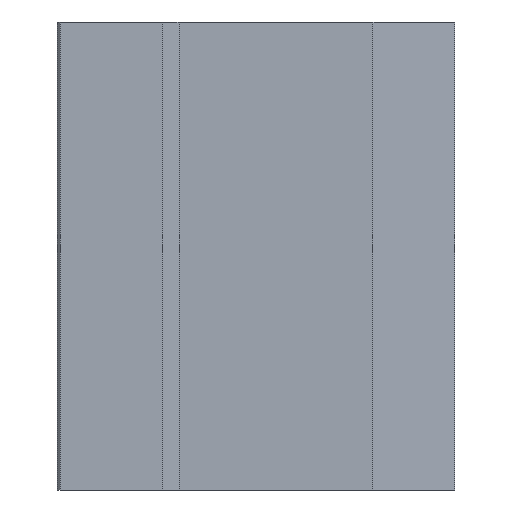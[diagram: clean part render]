
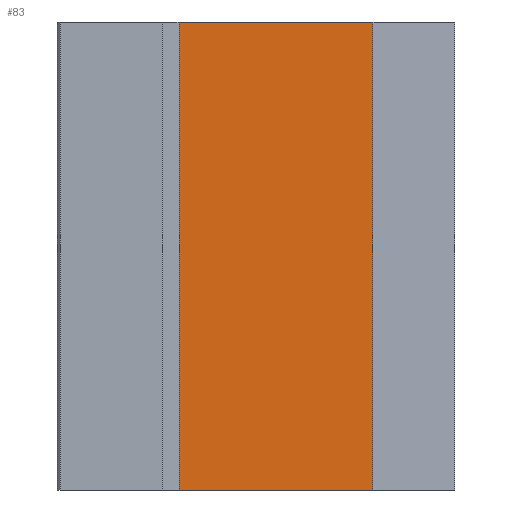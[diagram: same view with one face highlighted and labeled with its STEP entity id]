
A CAD part, left-side view. The second image highlights one B-rep face of the part: STEP entity #83.
In plain terms, the highlighted planar face has unit normal (-1, 0, 0).
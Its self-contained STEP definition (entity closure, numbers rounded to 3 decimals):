
#83=ADVANCED_FACE('',(#160),#161,.T.);
#160=FACE_OUTER_BOUND('',#321,.T.);
#161=PLANE('',#322);
#321=EDGE_LOOP('',(#555,#556,#557,#558));
#322=AXIS2_PLACEMENT_3D('',#559,#560,#561);
#555=ORIENTED_EDGE('',*,*,#1013,.F.);
#556=ORIENTED_EDGE('',*,*,#1019,.F.);
#557=ORIENTED_EDGE('',*,*,#971,.T.);
#558=ORIENTED_EDGE('',*,*,#1018,.T.);
#559=CARTESIAN_POINT('',(-42.15,-20.0,40.0));
#560=DIRECTION('',(-1.0,0.0,0.0));
#561=DIRECTION('',(0.0,-1.0,0.0));
#971=EDGE_CURVE('',#1133,#1131,#1134,.T.);
#1013=EDGE_CURVE('',#1215,#1217,#1218,.T.);
#1018=EDGE_CURVE('',#1131,#1217,#1224,.T.);
#1019=EDGE_CURVE('',#1133,#1215,#1225,.T.);
#1131=VERTEX_POINT('',#1395);
#1133=VERTEX_POINT('',#1398);
#1134=LINE('',#1399,#1400);
#1215=VERTEX_POINT('',#1517);
#1217=VERTEX_POINT('',#1520);
#1218=LINE('',#1521,#1522);
#1224=LINE('',#1532,#1533);
#1225=LINE('',#1534,#1535);
#1395=CARTESIAN_POINT('',(-42.15,13.15,40.0));
#1398=CARTESIAN_POINT('',(-42.15,-20.0,40.0));
#1399=CARTESIAN_POINT('',(-42.15,-20.0,40.0));
#1400=VECTOR('',#1743,1.0);
#1517=CARTESIAN_POINT('',(-42.15,-20.0,-40.0));
#1520=CARTESIAN_POINT('',(-42.15,13.15,-40.0));
#1521=CARTESIAN_POINT('',(-42.15,-20.0,-40.0));
#1522=VECTOR('',#1793,1.0);
#1532=CARTESIAN_POINT('',(-42.15,13.15,40.0));
#1533=VECTOR('',#1798,1.0);
#1534=CARTESIAN_POINT('',(-42.15,-20.0,40.0));
#1535=VECTOR('',#1799,1.0);
#1743=DIRECTION('',(0.0,1.0,0.0));
#1793=DIRECTION('',(0.0,1.0,0.0));
#1798=DIRECTION('',(0.0,0.0,-1.0));
#1799=DIRECTION('',(0.0,0.0,-1.0));
